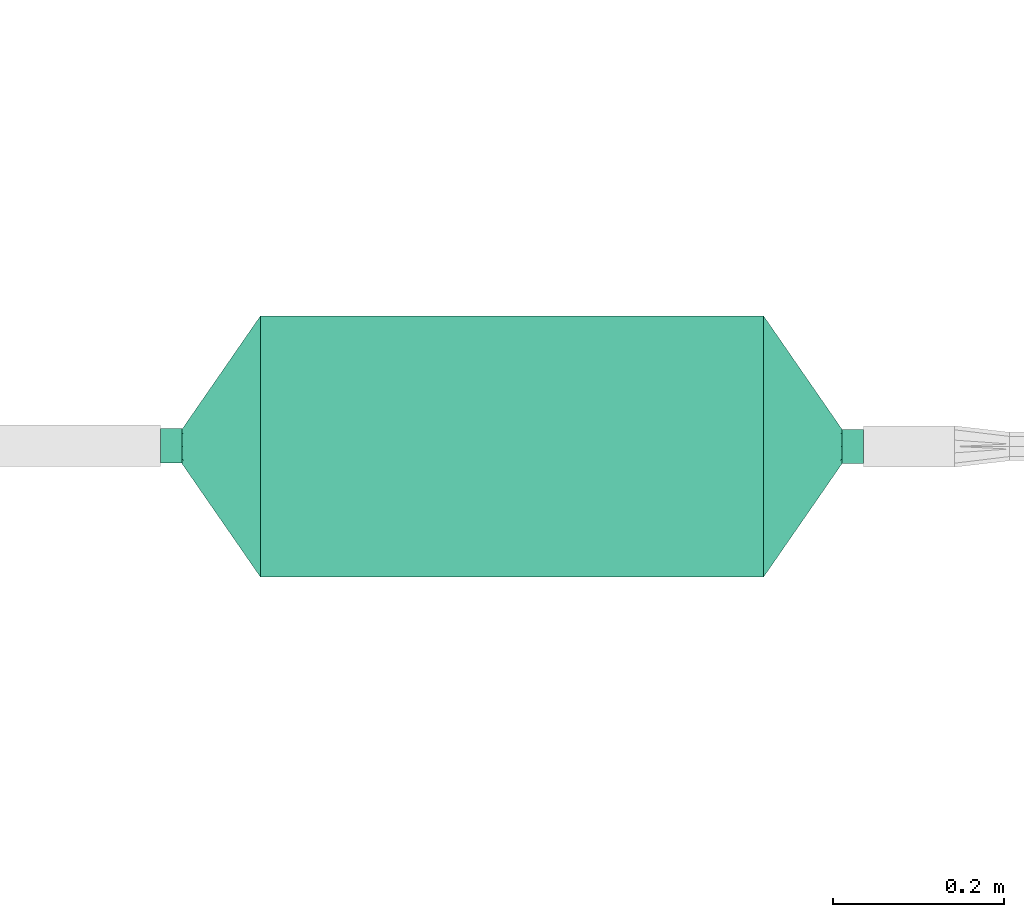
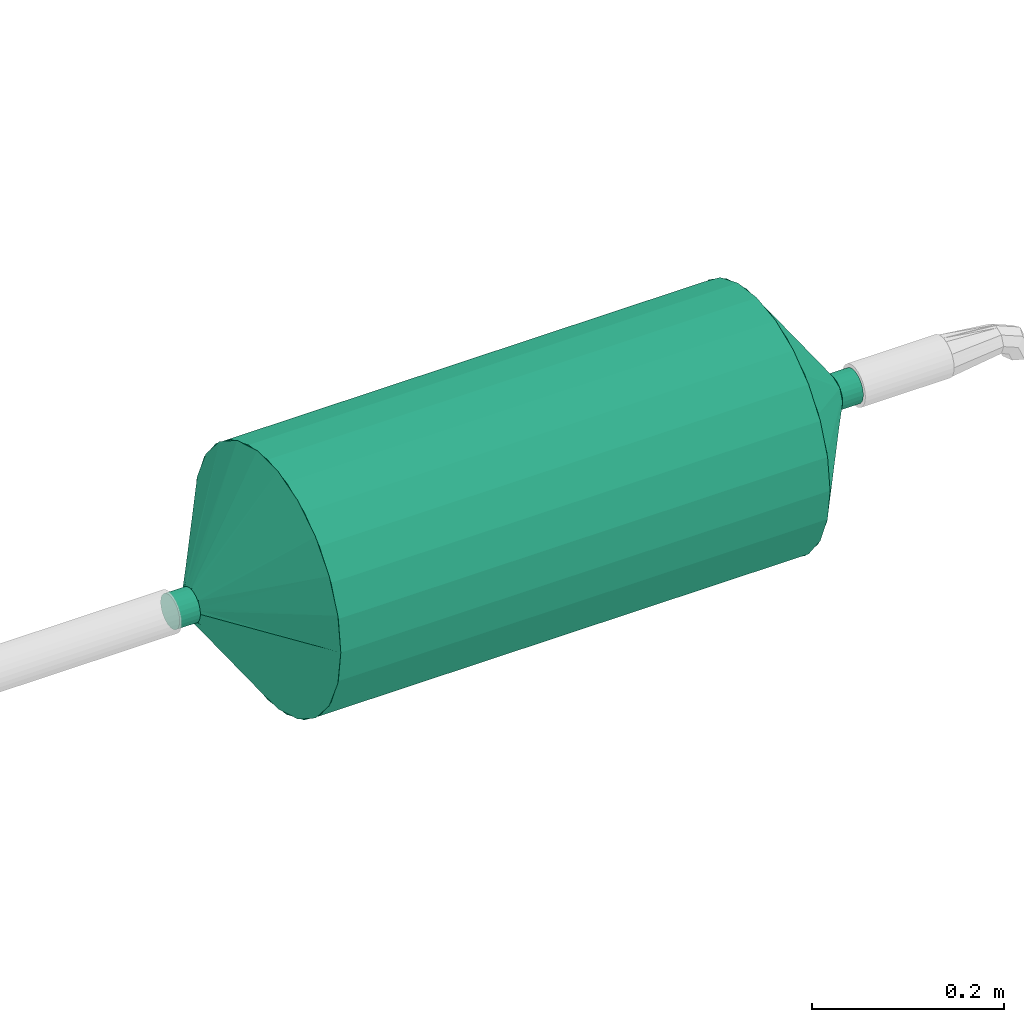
# One storey, part 6 of 6: 1 flow controller.
"""IFC2X3 building model written with IfcOpenShell, lengths in millimetres."""

from ifc_helpers import new_model, entity, si_unit, converted_unit, derived_unit, direction, frame, origin, place, context, subcontext, project, spatial, faceted_brep, source, transform, mapped, material, material_list, type_object, type_shapes, element, save


model = new_model("IFC2X3")

# Units and contexts
model_context = context("Model", 3, precision=0.01, world=origin(), true_north=direction((6.123031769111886e-17, 1.0)))
body_context = subcontext(model_context, "Body", "Model", "MODEL_VIEW")
ifc_project = project(units=[si_unit("LENGTHUNIT", "METRE", prefix="MILLI"), si_unit("AREAUNIT", "SQUARE_METRE"), si_unit("VOLUMEUNIT", "CUBIC_METRE"), converted_unit("PLANEANGLEUNIT", "DEGREE", entity("IfcRatioMeasure", 0.017453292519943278), si_unit("PLANEANGLEUNIT", "RADIAN"), dimensions=[0, 0, 0, 0, 0, 0, 0]), si_unit("MASSUNIT", "GRAM", prefix="KILO"), derived_unit("MASSDENSITYUNIT", [(si_unit("MASSUNIT", "GRAM", prefix="KILO"), 1), (si_unit("LENGTHUNIT", "METRE"), -3)]), derived_unit("IONCONCENTRATIONUNIT", [(si_unit("MASSUNIT", "GRAM", prefix="KILO"), 1), (si_unit("LENGTHUNIT", "METRE"), -3)]), derived_unit("MOMENTOFINERTIAUNIT", [(si_unit("LENGTHUNIT", "METRE"), 4)]), si_unit("TIMEUNIT", "SECOND"), si_unit("FREQUENCYUNIT", "HERTZ"), si_unit("THERMODYNAMICTEMPERATUREUNIT", "DEGREE_CELSIUS"), derived_unit("THERMALTRANSMITTANCEUNIT", [(si_unit("MASSUNIT", "GRAM", prefix="KILO"), 1), (si_unit("THERMODYNAMICTEMPERATUREUNIT", "KELVIN"), -1), (si_unit("TIMEUNIT", "SECOND"), -3)]), derived_unit("THERMALCONDUCTANCEUNIT", [(si_unit("MASSUNIT", "GRAM", prefix="KILO"), 1), (si_unit("THERMODYNAMICTEMPERATUREUNIT", "KELVIN"), -1), (si_unit("TIMEUNIT", "SECOND"), -3), (si_unit("LENGTHUNIT", "METRE"), 1)]), derived_unit("VOLUMETRICFLOWRATEUNIT", [(si_unit("LENGTHUNIT", "METRE"), 3), (si_unit("TIMEUNIT", "SECOND"), -1)]), derived_unit("MASSFLOWRATEUNIT", [(si_unit("MASSUNIT", "GRAM", prefix="KILO"), 1), (si_unit("TIMEUNIT", "SECOND"), -1)]), derived_unit("ROTATIONALFREQUENCYUNIT", [(si_unit("TIMEUNIT", "SECOND"), -1)]), si_unit("ELECTRICCURRENTUNIT", "AMPERE"), si_unit("ELECTRICVOLTAGEUNIT", "VOLT"), si_unit("POWERUNIT", "WATT"), si_unit("FORCEUNIT", "NEWTON", prefix="KILO"), si_unit("ILLUMINANCEUNIT", "LUX"), si_unit("LUMINOUSFLUXUNIT", "LUMEN"), si_unit("LUMINOUSINTENSITYUNIT", "CANDELA"), derived_unit("USERDEFINED", [(si_unit("MASSUNIT", "GRAM", prefix="KILO"), -1), (si_unit("LENGTHUNIT", "METRE"), -2), (si_unit("TIMEUNIT", "SECOND"), 3), (si_unit("LUMINOUSFLUXUNIT", "LUMEN"), 1)]), derived_unit("USERDEFINED", [(si_unit("MASSUNIT", "GRAM", prefix="KILO"), 1), (si_unit("TIMEUNIT", "SECOND"), -3), (si_unit("LENGTHUNIT", "METRE"), 3), (si_unit("ELECTRICCURRENTUNIT", "AMPERE"), -2)]), derived_unit("SOUNDPOWERUNIT", [(si_unit("MASSUNIT", "GRAM", prefix="KILO"), 1), (si_unit("TIMEUNIT", "SECOND"), -3), (si_unit("LENGTHUNIT", "METRE"), 2)]), derived_unit("SOUNDPRESSUREUNIT", [(si_unit("MASSUNIT", "GRAM", prefix="KILO"), 1), (si_unit("LENGTHUNIT", "METRE"), -1), (si_unit("TIMEUNIT", "SECOND"), -2)]), derived_unit("LINEARVELOCITYUNIT", [(si_unit("LENGTHUNIT", "METRE"), 1), (si_unit("TIMEUNIT", "SECOND"), -1)]), si_unit("PRESSUREUNIT", "PASCAL"), derived_unit("USERDEFINED", [(si_unit("MASSUNIT", "GRAM", prefix="KILO"), 1), (si_unit("LENGTHUNIT", "METRE"), -2), (si_unit("TIMEUNIT", "SECOND"), -2)]), derived_unit("LINEARFORCEUNIT", [(si_unit("MASSUNIT", "GRAM", prefix="KILO"), 1), (si_unit("TIMEUNIT", "SECOND"), -2)]), derived_unit("PLANARFORCEUNIT", [(si_unit("MASSUNIT", "GRAM", prefix="KILO"), 1), (si_unit("LENGTHUNIT", "METRE"), -1), (si_unit("TIMEUNIT", "SECOND"), -2)]), derived_unit("SPECIFICHEATCAPACITYUNIT", [(si_unit("THERMODYNAMICTEMPERATUREUNIT", "KELVIN"), -1), (si_unit("LENGTHUNIT", "METRE"), 2), (si_unit("TIMEUNIT", "SECOND"), -2)]), derived_unit("HEATINGVALUEUNIT", [(si_unit("LENGTHUNIT", "METRE"), 2), (si_unit("TIMEUNIT", "SECOND"), -2)]), derived_unit("VAPORPERMEABILITYUNIT", [(si_unit("LENGTHUNIT", "METRE"), -1), (si_unit("TIMEUNIT", "SECOND"), 1)]), derived_unit("DYNAMICVISCOSITYUNIT", [(si_unit("MASSUNIT", "GRAM", prefix="KILO"), 1), (si_unit("TIMEUNIT", "SECOND"), -1), (si_unit("LENGTHUNIT", "METRE"), -1)]), derived_unit("THERMALEXPANSIONCOEFFICIENTUNIT", [(si_unit("THERMODYNAMICTEMPERATUREUNIT", "KELVIN"), -1)]), derived_unit("MODULUSOFELASTICITYUNIT", [(si_unit("MASSUNIT", "GRAM", prefix="KILO"), 1), (si_unit("LENGTHUNIT", "METRE"), -1), (si_unit("TIMEUNIT", "SECOND"), -2)]), derived_unit("ISOTHERMALMOISTURECAPACITYUNIT", [(si_unit("LENGTHUNIT", "METRE"), 3), (si_unit("MASSUNIT", "GRAM", prefix="KILO"), -1)]), derived_unit("MOISTUREDIFFUSIVITYUNIT", [(si_unit("TIMEUNIT", "SECOND"), -1), (si_unit("LENGTHUNIT", "METRE"), 2)])], contexts=[model_context])

# Site, building, storey
site_placement = place(None, origin())
site = spatial("IfcSite", under=ifc_project, at=site_placement, Name="Default", CompositionType="ELEMENT")
building_placement = place(site_placement, origin())
building = spatial("IfcBuilding", under=site, at=building_placement, CompositionType="ELEMENT")
storey_placement = place(building_placement, frame((0.0, 0.0, 3000.0)))
storey = spatial("IfcBuildingStorey", under=building, at=storey_placement, Name="Niveau 1", CompositionType="ELEMENT", Elevation=3000.0)

# Flow controller
ifc_material_1 = material(Name="Jaune ALU")
ifc_material_2 = material(Name="<Unnamed>")
ifc_material_list = material_list([ifc_material_1, ifc_material_2])
valve_type = type_object("IfcValveType", Name="Gaz naturel - Volume tampon:100 L", PredefinedType="NOTDEFINED", material=ifc_material_list)
shared_shape = source(origin(), body_context, "Body", "Brep", [
    faceted_brep([(387.0, -20.0, 0.0), (387.0, -18.535533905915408, -3.5355339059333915), (387.0, -17.07106781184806, -7.071067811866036), (387.0, -15.606601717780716, -10.60660171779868), (387.0, -14.14213562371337, -14.142135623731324), (387.0, -10.606601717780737, -15.606601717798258), (387.0, -7.0710678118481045, -17.07106781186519), (387.0, -3.5355339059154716, -18.53553390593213), (387.0, 0.0, -20.0), (387.0, 3.535533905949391, -18.53553390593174), (387.0, 7.071067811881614, -17.07106781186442), (387.0, 10.606601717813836, -15.6066017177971), (387.0, 14.142135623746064, -14.142135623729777), (387.0, 15.606601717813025, -10.606601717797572), (387.0, 17.071067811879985, -7.071067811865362), (387.0, 18.535533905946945, -3.5355339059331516), (387.0, 20.0, 0.0), (387.0, 18.53553390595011, 3.5355339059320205), (387.0, 17.071067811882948, 7.071067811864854), (387.0, 15.606601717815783, 10.606601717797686), (387.0, 14.14213562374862, 14.14213562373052), (387.0, 10.60660171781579, 15.606601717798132), (387.0, 7.071067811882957, 17.07106781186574), (387.0, 3.5355339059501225, 18.535533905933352), (387.0, 0.0, 20.0), (387.0, -3.535533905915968, 18.535533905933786), (387.0, -7.0710678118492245, 17.071067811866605), (387.0, -10.606601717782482, 15.60660171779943), (387.0, -14.14213562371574, 14.142135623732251), (387.0, -15.606601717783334, 10.606601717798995), (387.0, -17.07106781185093, 7.071067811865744), (387.0, -18.535533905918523, 3.535533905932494), (295.0, 153.0, 0.0), (295.0, 146.802424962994, -43.105081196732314), (295.0, 128.7117905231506, -82.71804507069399), (295.0, 100.19369229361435, -115.62968487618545), (295.0, 63.55849698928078, -139.1736952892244), (295.0, 21.77417025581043, -151.44268060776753), (295.0, -21.774170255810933, -151.44268060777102), (295.0, -63.558496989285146, -139.17369528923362), (295.0, -100.19369229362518, -115.6296848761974), (295.0, -128.71179052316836, -82.71804507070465), (295.0, -146.8024249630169, -43.10508119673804), (295.0, -153.0, 0.0), (295.0, -146.8024249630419, 43.10508119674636), (295.0, -128.71179052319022, 82.71804507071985), (295.0, -100.19369229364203, 115.62968487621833), (295.0, -63.55849698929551, 139.1736952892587), (295.0, -21.77417025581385, 151.44268060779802), (295.0, 21.774170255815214, 151.44268060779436), (295.0, 63.558496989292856, 139.17369528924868), (295.0, 100.19369229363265, 115.62968487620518), (295.0, 128.71179052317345, 82.71804507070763), (295.0, 146.8024249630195, 43.105081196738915)], [[[0, 1, 2, 3, 4, 5, 6, 7, 8, 9, 10, 11, 12, 13, 14, 15, 16, 17, 18, 19, 20, 21, 22, 23, 24, 25, 26, 27, 28, 29, 30, 31]], [[32, 33, 34, 35, 36, 37, 38, 39, 40, 41, 42, 43, 44, 45, 46, 47, 48, 49, 50, 51, 52, 53]], [[34, 33, 14]], [[9, 8, 37]], [[35, 12, 11]], [[36, 9, 37]], [[36, 11, 10, 9]], [[5, 4, 40]], [[3, 2, 41, 4]], [[34, 14, 13, 12]], [[34, 12, 35]], [[4, 41, 40]], [[15, 32, 16]], [[39, 5, 40]], [[0, 43, 1]], [[41, 2, 42]], [[5, 39, 7, 6]], [[38, 8, 7]], [[36, 35, 11]], [[32, 15, 33]], [[1, 43, 42]], [[39, 38, 7]], [[42, 2, 1]], [[8, 38, 37]], [[15, 14, 33]], [[45, 44, 30]], [[25, 24, 48]], [[46, 28, 27]], [[47, 25, 48]], [[47, 27, 26, 25]], [[21, 20, 51]], [[19, 18, 52, 20]], [[45, 30, 29, 28]], [[45, 28, 46]], [[20, 52, 51]], [[31, 43, 0]], [[50, 21, 51]], [[16, 32, 17]], [[52, 18, 53]], [[21, 50, 23, 22]], [[49, 24, 23]], [[47, 46, 27]], [[43, 31, 44]], [[17, 32, 53]], [[50, 49, 23]], [[53, 18, 17]], [[24, 49, 48]], [[31, 30, 44]]]),
    faceted_brep([(295.0, 76.4999999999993, -132.50188677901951), (295.0, 108.18733752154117, -108.18733752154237), (295.0, 132.50188677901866, -76.50000000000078), (295.0, 147.7866514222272, -39.59931390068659), (295.0, 153.0, 0.0), (295.0, 147.78665142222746, 39.599313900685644), (295.0, 132.50188677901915, 76.49999999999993), (295.0, 108.18733752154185, 108.18733752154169), (295.0, 76.50000000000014, 132.50188677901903), (295.0, 39.59931390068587, 147.7866514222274), (295.0, 0.0, 153.0), (295.0, -39.59931390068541, 147.78665142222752), (295.0, -76.49999999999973, 132.5018867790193), (295.0, -108.18733752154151, 108.18733752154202), (295.0, -132.50188677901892, 76.50000000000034), (295.0, -147.78665142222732, 39.599313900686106), (295.0, -153.0, 0.0), (295.0, -147.7866514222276, -39.59931390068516), (295.0, -132.50188677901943, -76.49999999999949), (295.0, -108.18733752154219, -108.18733752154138), (295.0, -76.50000000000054, -132.5018867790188), (295.0, -39.599313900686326, -147.7866514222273), (295.0, 0.0, -153.0), (295.0, 39.599313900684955, -147.78665142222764), (-295.0, 0.0, 153.0), (-295.0, 39.59931390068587, 147.7866514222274), (-295.0, 76.50000000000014, 132.50188677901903), (-295.0, 108.18733752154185, 108.18733752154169), (-295.0, 132.50188677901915, 76.49999999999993), (-295.0, 147.78665142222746, 39.599313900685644), (-295.0, 153.0, 0.0), (-295.0, 147.7866514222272, -39.59931390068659), (-295.0, 132.50188677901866, -76.50000000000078), (-295.0, 108.18733752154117, -108.18733752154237), (-295.0, 76.4999999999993, -132.50188677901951), (-295.0, 39.599313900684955, -147.78665142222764), (-295.0, 0.0, -153.0), (-295.0, -39.599313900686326, -147.7866514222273), (-295.0, -76.50000000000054, -132.5018867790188), (-295.0, -108.18733752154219, -108.18733752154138), (-295.0, -132.50188677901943, -76.49999999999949), (-295.0, -147.7866514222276, -39.59931390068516), (-295.0, -153.0, 0.0), (-295.0, -147.78665142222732, 39.599313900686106), (-295.0, -132.50188677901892, 76.50000000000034), (-295.0, -108.18733752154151, 108.18733752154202), (-295.0, -76.49999999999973, 132.5018867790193), (-295.0, -39.59931390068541, 147.78665142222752)], [[[0, 1, 2, 3, 4, 5, 6, 7, 8, 9, 10, 11, 12, 13, 14, 15, 16, 17, 18, 19, 20, 21, 22, 23]], [[24, 25, 26, 27, 28, 29, 30, 31, 32, 33, 34, 35, 36, 37, 38, 39, 40, 41, 42, 43, 44, 45, 46, 47]], [[17, 41, 40, 18]], [[39, 19, 18, 40]], [[20, 38, 37, 21]], [[39, 38, 20, 19]], [[21, 37, 36, 22]], [[41, 17, 16, 42]], [[23, 35, 34, 0]], [[33, 1, 0, 34]], [[2, 32, 31, 3]], [[33, 32, 2, 1]], [[3, 31, 30, 4]], [[35, 23, 22, 36]], [[6, 28, 27, 7]], [[8, 26, 25, 9]], [[27, 26, 8, 7]], [[24, 10, 9, 25]], [[4, 30, 29, 5]], [[29, 28, 6, 5]], [[11, 47, 46, 12]], [[45, 13, 12, 46]], [[14, 44, 43, 15]], [[45, 44, 14, 13]], [[15, 43, 42, 16]], [[47, 11, 10, 24]]]),
    faceted_brep([(-387.0, 6.0124725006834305, -19.31851652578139), (-387.0, 10.836091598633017, -17.320508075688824), (-387.0, 14.97822722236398, -14.14213562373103), (-387.0, 18.15659967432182, -10.0), (-387.0, 20.154608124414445, -5.176380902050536), (-387.0, 20.83609159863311, 0.0), (-387.0, 20.15460812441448, 5.17638090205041), (-387.0, 18.15659967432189, 10.0), (-387.0, 14.978227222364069, 14.14213562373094), (-387.0, 10.836091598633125, 17.320508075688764), (-387.0, 6.0124725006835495, 19.31851652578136), (-387.0, 0.8360915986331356, 20.0), (-387.0, -4.340289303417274, 19.318516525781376), (-387.0, -9.163908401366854, 17.320508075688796), (-387.0, -13.30604402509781, 14.142135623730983), (-387.0, -16.48441647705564, 10.0), (-387.0, -18.48242492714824, 5.176380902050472), (-387.0, -19.16390840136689, 0.0), (-387.0, -18.482424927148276, -5.176380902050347), (-387.0, -16.484416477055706, -10.0), (-387.0, -13.306044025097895, -14.142135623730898), (-387.0, -9.16390840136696, -17.320508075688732), (-387.0, -4.340289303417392, -19.318516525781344), (-387.0, 0.8360915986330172, -20.0), (-412.0, 0.836091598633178, 20.0), (-412.0, 6.0124725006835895, 19.31851652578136), (-412.0, 10.836091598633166, 17.320508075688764), (-412.0, 14.97822722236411, 14.14213562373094), (-412.0, 18.156599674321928, 10.0), (-412.0, 20.154608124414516, 5.17638090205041), (-412.0, 20.83609159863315, 0.0), (-412.0, 20.154608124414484, -5.176380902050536), (-412.0, 18.15659967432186, -10.0), (-412.0, 14.978227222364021, -14.14213562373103), (-412.0, 10.836091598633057, -17.320508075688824), (-412.0, 6.012472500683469, -19.31851652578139), (-412.0, 0.8360915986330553, -20.0), (-412.0, -4.34028930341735, -19.318516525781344), (-412.0, -9.163908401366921, -17.320508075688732), (-412.0, -13.306044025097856, -14.142135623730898), (-412.0, -16.484416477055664, -10.0), (-412.0, -18.482424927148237, -5.176380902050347), (-412.0, -19.163908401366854, 0.0), (-412.0, -18.4824249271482, 5.176380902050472), (-412.0, -16.4844164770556, 10.0), (-412.0, -13.306044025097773, 14.142135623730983), (-412.0, -9.163908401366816, 17.320508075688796), (-412.0, -4.340289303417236, 19.318516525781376)], [[[0, 1, 2, 3, 4, 5, 6, 7, 8, 9, 10, 11, 12, 13, 14, 15, 16, 17, 18, 19, 20, 21, 22, 23]], [[24, 25, 26, 27, 28, 29, 30, 31, 32, 33, 34, 35, 36, 37, 38, 39, 40, 41, 42, 43, 44, 45, 46, 47]], [[41, 18, 17, 42]], [[40, 19, 18, 41]], [[21, 20, 39, 38]], [[40, 39, 20, 19]], [[22, 21, 38, 37]], [[23, 22, 37, 36]], [[36, 35, 0, 23]], [[31, 4, 3, 32]], [[32, 3, 2, 33]], [[4, 31, 30, 5]], [[0, 35, 34, 1]], [[34, 33, 2, 1]], [[29, 6, 5, 30]], [[28, 7, 6, 29]], [[9, 8, 27, 26]], [[28, 27, 8, 7]], [[10, 9, 26, 25]], [[11, 10, 25, 24]], [[45, 14, 13, 46]], [[15, 44, 43, 16]], [[45, 44, 15, 14]], [[16, 43, 42, 17]], [[46, 13, 12, 47]], [[12, 11, 24, 47]]]),
    faceted_brep([(412.0, 5.176380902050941, -19.31851652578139), (412.0, 10.0, -17.320508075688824), (412.0, 14.142135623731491, -14.14213562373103), (412.0, 17.320508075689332, -10.0), (412.0, 19.318516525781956, -5.176380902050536), (412.0, 20.0, 0.0), (412.0, 19.31851652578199, 5.17638090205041), (412.0, 17.3205080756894, 10.0), (412.0, 14.14213562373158, 14.14213562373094), (412.0, 10.0, 17.320508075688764), (412.0, 5.1763809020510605, 19.31851652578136), (412.0, 0.0, 20.0), (412.0, -5.176380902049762, 19.318516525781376), (412.0, -10.0, 17.320508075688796), (412.0, -14.142135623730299, 14.142135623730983), (412.0, -17.320508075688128, 10.0), (412.0, -19.31851652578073, 5.176380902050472), (412.0, -20.0, 0.0), (412.0, -19.318516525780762, -5.176380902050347), (412.0, -17.320508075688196, -10.0), (412.0, -14.142135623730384, -14.142135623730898), (412.0, -10.0, -17.320508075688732), (412.0, -5.176380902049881, -19.318516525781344), (412.0, 0.0, -20.0), (387.0, 0.0, 20.0), (387.0, 5.176380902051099, 19.31851652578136), (387.0, 10.0, 17.320508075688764), (387.0, 14.14213562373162, 14.14213562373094), (387.0, 17.32050807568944, 10.0), (387.0, 19.318516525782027, 5.17638090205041), (387.0, 20.0, 0.0), (387.0, 19.318516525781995, -5.176380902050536), (387.0, 17.320508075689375, -10.0), (387.0, 14.142135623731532, -14.14213562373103), (387.0, 10.0, -17.320508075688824), (387.0, 5.176380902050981, -19.31851652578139), (387.0, 0.0, -20.0), (387.0, -5.176380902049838, -19.318516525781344), (387.0, -10.0, -17.320508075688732), (387.0, -14.142135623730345, -14.142135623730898), (387.0, -17.320508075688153, -10.0), (387.0, -19.318516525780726, -5.176380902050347), (387.0, -20.0, 0.0), (387.0, -19.31851652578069, 5.176380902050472), (387.0, -17.32050807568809, 10.0), (387.0, -14.142135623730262, 14.142135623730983), (387.0, -10.0, 17.320508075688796), (387.0, -5.176380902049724, 19.318516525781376)], [[[0, 1, 2, 3, 4, 5, 6, 7, 8, 9, 10, 11, 12, 13, 14, 15, 16, 17, 18, 19, 20, 21, 22, 23]], [[24, 25, 26, 27, 28, 29, 30, 31, 32, 33, 34, 35, 36, 37, 38, 39, 40, 41, 42, 43, 44, 45, 46, 47]], [[41, 18, 17, 42]], [[40, 19, 18, 41]], [[21, 20, 39, 38]], [[40, 39, 20, 19]], [[22, 21, 38, 37]], [[23, 22, 37, 36]], [[36, 35, 0, 23]], [[31, 4, 3, 32]], [[32, 3, 2, 33]], [[4, 31, 30, 5]], [[0, 35, 34, 1]], [[34, 33, 2, 1]], [[29, 6, 5, 30]], [[28, 7, 6, 29]], [[9, 8, 27, 26]], [[28, 27, 8, 7]], [[10, 9, 26, 25]], [[11, 10, 25, 24]], [[45, 14, 13, 46]], [[15, 44, 43, 16]], [[45, 44, 15, 14]], [[16, 43, 42, 17]], [[46, 13, 12, 47]], [[12, 11, 24, 47]]]),
    faceted_brep([(-387.0, -20.0, 0.0), (-387.0, -18.535533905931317, 3.535533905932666), (-387.0, -17.07106781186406, 7.071067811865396), (-387.0, -15.6066017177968, 10.606601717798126), (-387.0, -14.14213562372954, 14.142135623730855), (-387.0, -10.60660171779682, 15.606601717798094), (-387.0, -7.071067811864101, 17.071067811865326), (-387.0, -3.5355339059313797, 18.53553390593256), (-387.0, 0.0, 20.0), (-387.0, 3.53553390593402, 18.53553390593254), (-387.0, 7.0710678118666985, 17.071067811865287), (-387.0, 10.606601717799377, 15.606601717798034), (-387.0, 14.142135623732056, 14.142135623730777), (-387.0, 15.606601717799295, 10.606601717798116), (-387.0, 17.071067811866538, 7.07106781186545), (-387.0, 18.53553390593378, 3.535533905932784), (-387.0, 20.0, 0.0), (-387.0, 18.535533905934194, -3.535533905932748), (-387.0, 17.071067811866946, -7.071067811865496), (-387.0, 15.6066017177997, -10.606601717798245), (-387.0, 14.142135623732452, -14.142135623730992), (-387.0, 10.606601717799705, -15.6066017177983), (-387.0, 7.071067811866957, -17.07106781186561), (-387.0, 3.5355339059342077, -18.535533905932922), (-387.0, 0.0, -20.0), (-387.0, -3.5355339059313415, -18.535533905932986), (-387.0, -7.071067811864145, -17.071067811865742), (-387.0, -10.606601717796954, -15.606601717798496), (-387.0, -14.142135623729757, -14.142135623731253), (-387.0, -15.60660171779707, -10.606601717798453), (-387.0, -17.07106781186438, -7.071067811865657), (-387.0, -18.5355339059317, -3.5355339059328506), (-295.0, 21.77417025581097, 151.44268060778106), (-295.0, -21.774170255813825, 151.44268060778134), (-295.0, -63.558496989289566, 139.17369528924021), (-295.0, -100.19369229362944, 115.6296848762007), (-295.0, -128.71179052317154, 82.7180450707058), (-295.0, -146.80242496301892, 43.105081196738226), (-295.0, -153.0, 0.0), (-295.0, -146.8024249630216, -43.10508119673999), (-295.0, -128.71179052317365, -82.7180450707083), (-295.0, -100.19369229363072, -115.62968487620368), (-295.0, -63.55849698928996, -139.17369528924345), (-295.0, -21.77417025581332, -151.44268060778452), (-295.0, 21.77417025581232, -151.44268060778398), (-295.0, 63.55849698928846, -139.1736952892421), (-295.0, 100.19369229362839, -115.62968487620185), (-295.0, 128.71179052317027, -82.7180450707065), (-295.0, 146.8024249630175, -43.10508119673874), (-295.0, 153.0, 0.0), (-295.0, 146.8024249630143, 43.10508119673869), (-295.0, 128.71179052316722, 82.71804507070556), (-295.0, 100.19369229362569, 115.62968487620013), (-295.0, 63.55849698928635, 139.17369528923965)], [[[0, 1, 2, 3, 4, 5, 6, 7, 8, 9, 10, 11, 12, 13, 14, 15, 16, 17, 18, 19, 20, 21, 22, 23, 24, 25, 26, 27, 28, 29, 30, 31]], [[32, 33, 34, 35, 36, 37, 38, 39, 40, 41, 42, 43, 44, 45, 46, 47, 48, 49, 50, 51, 52, 53]], [[40, 39, 30]], [[25, 24, 43]], [[41, 28, 27]], [[42, 25, 43]], [[42, 27, 26, 25]], [[21, 20, 46]], [[19, 18, 47, 20]], [[40, 30, 29, 28]], [[40, 28, 41]], [[20, 47, 46]], [[31, 38, 0]], [[45, 21, 46]], [[16, 49, 17]], [[47, 18, 48]], [[21, 45, 23, 22]], [[44, 24, 23]], [[42, 41, 27]], [[38, 31, 39]], [[17, 49, 48]], [[45, 44, 23]], [[48, 18, 17]], [[24, 44, 43]], [[31, 30, 39]], [[51, 50, 14]], [[9, 8, 32]], [[52, 12, 11]], [[53, 9, 32]], [[53, 11, 10, 9]], [[5, 4, 35]], [[3, 2, 36, 4]], [[51, 14, 13, 12]], [[51, 12, 52]], [[4, 36, 35]], [[15, 49, 16]], [[34, 5, 35]], [[0, 38, 1]], [[36, 2, 37]], [[5, 34, 7, 6]], [[33, 8, 7]], [[53, 52, 11]], [[49, 15, 50]], [[1, 38, 37]], [[34, 33, 7]], [[37, 2, 1]], [[8, 33, 32]], [[15, 14, 50]]]),
])
type_shapes(valve_type, [shared_shape])
flow_controller_placement = place(storey_placement, frame((-12004.038466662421, 7396.071425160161, 275.0)))
element("IfcFlowController", 1, at=flow_controller_placement, inside=storey, type_object=valve_type, material=ifc_material_list, Name="Gaz naturel - Volume tampon:100 L", ObjectType="Gaz naturel - Volume tampon:100 L", context=body_context, shape_type="MappedRepresentation", body=[
    mapped(shared_shape, transform((0.0, 0.0, 0.0), scale=1.0)),
])

save(model, "model.ifc")
